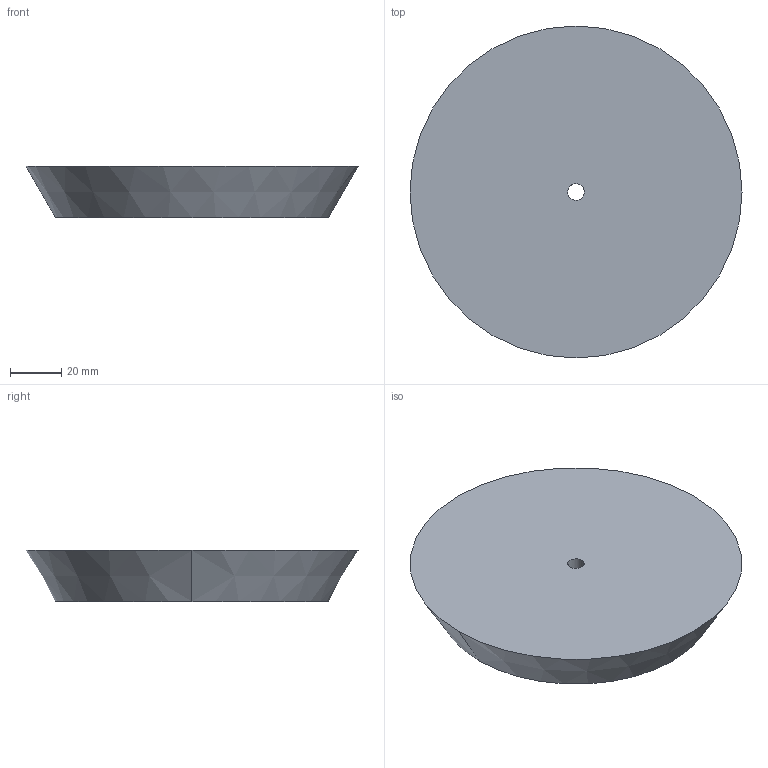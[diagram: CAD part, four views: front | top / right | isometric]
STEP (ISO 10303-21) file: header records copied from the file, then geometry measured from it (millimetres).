
FILE_DESCRIPTION(('CATIA V5 STEP Exchange'),'2;1');
FILE_NAME('C:\Users\andres.garcia\OneDrive - IQS\ASIGNATURAS\DAO\Controles\2223\c0\c1-FRADERA_Nicolas-tapon.stp','2023-02-03T08:22:04+00:00',('none'),('none'),'CATIA Version 5-6 Release 2013 SP6','CATIA V5 STEP AP203','none');
FILE_SCHEMA(('CONFIG_CONTROL_DESIGN'));
Length unit declared in the file: millimetre
Products named in the file (1): c1-FRADERA_Nicolas-tapon
Bounding box: 130 x 130 x 20 mm (x, y, z)
Volume: 220434.7 mm3; surface area: 31185.5 mm2
Topology: 1 solids, 1 shells, 6 faces, 12 edges, 8 vertices
Faces by surface type: cylinder 2, plane 2, cone 2
Entity records: 196 total; most frequent: CARTESIAN_POINT 26, ORIENTED_EDGE 24, DIRECTION 22, AXIS2_PLACEMENT_3D 14, EDGE_CURVE 12, CIRCLE 8, EDGE_LOOP 8, VERTEX_POINT 8
